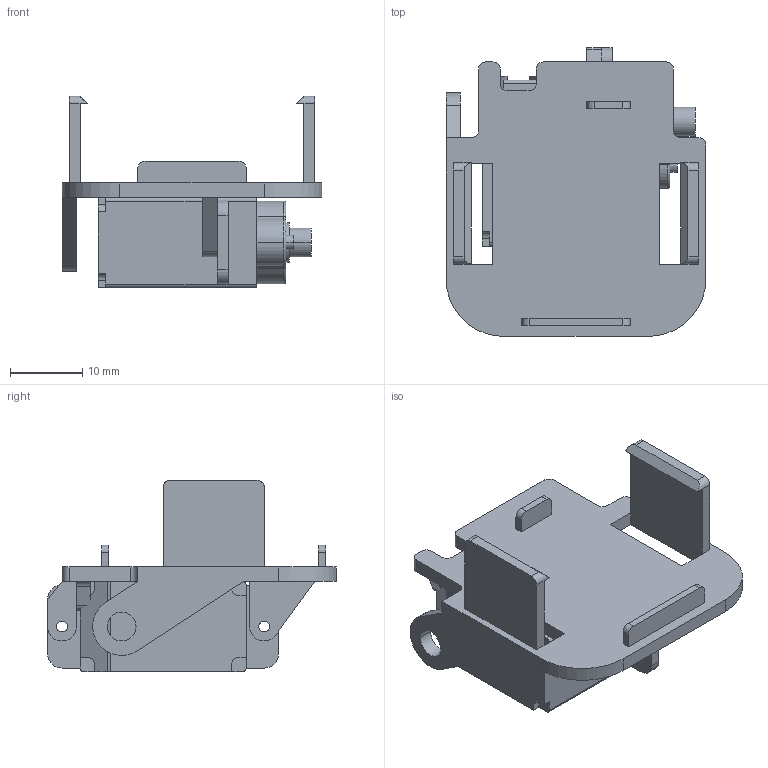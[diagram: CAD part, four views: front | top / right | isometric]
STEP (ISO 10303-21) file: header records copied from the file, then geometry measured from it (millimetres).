
FILE_DESCRIPTION (( 'STEP AP203' ), '1' );
FILE_NAME ('嗆儂縐.S', '2026-09-16T02:57:25', ( '' ), ( '' ), 'SwSTEP 2.0', 'SolidWorks 2024', '' );
FILE_SCHEMA (( 'CONFIG_CONTROL_DESIGN' ));
Length unit declared in the file: millimetre
Products named in the file (3): 9G舵机; 舵机卡; 卡壳
Assembly tree (2 placements, depth 2):
  舵机卡
    卡壳
    9G舵机
Bounding box: 36 x 40 x 26.5 mm (x, y, z)
Volume: 10133.5 mm3; surface area: 6671.1 mm2
Topology: 2 solids, 2 shells, 173 faces, 459 edges, 296 vertices
Faces by surface type: plane 101, cylinder 67, torus 5
Entity records: 5684 total; most frequent: CARTESIAN_POINT 951, DIRECTION 947, ORIENTED_EDGE 918, EDGE_CURVE 459, AXIS2_PLACEMENT_3D 316, VECTOR 315, LINE 315, VERTEX_POINT 296
